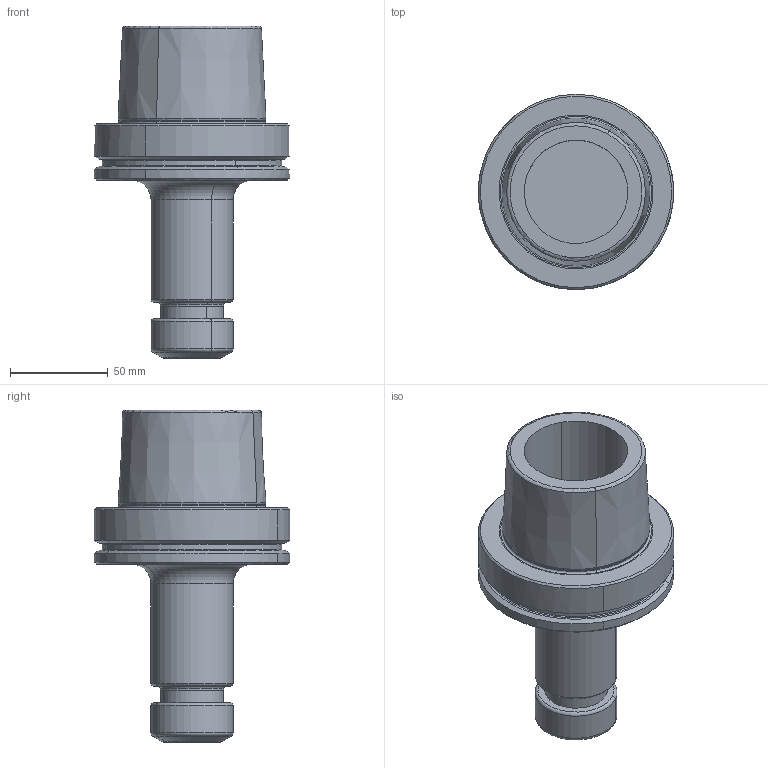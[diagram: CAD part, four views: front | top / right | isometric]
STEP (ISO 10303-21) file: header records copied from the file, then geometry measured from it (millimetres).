
FILE_DESCRIPTION(('CATIA V5 STEP','CAx-IF Rec.Pracs.--- Model Styling and Organization---1.2---2011-12-15'),'2;1');
FILE_NAME('\\nas01\drv1\utils\eitdev\rte\eit\transmagicconvert\db\out\635923300047290061\4561155-L-B.stp','2016-02-29T06:06:55+00:00',('none'),('none'),'CATIA Version 5 Release 21 SP 5 (IN-10)','CATIA V5 STEP AP214','none');
FILE_SCHEMA(('AUTOMOTIVE_DESIGN { 1 0 10303 214 1 1 1 1 }'));
Length unit declared in the file: millimetre
Products named in the file (1): HSK A 100 ER25X120
Bounding box: 99.98 x 100 x 170 mm (x, y, z)
Volume: 402542.2 mm3; surface area: 61939.2 mm2
Topology: 1 solids, 1 shells, 78 faces, 204 edges, 135 vertices
Faces by surface type: cylinder 24, cone 22, torus 22, plane 10
Entity records: 2345 total; most frequent: CARTESIAN_POINT 574, ORIENTED_EDGE 404, DIRECTION 274, EDGE_CURVE 202, AXIS2_PLACEMENT_3D 183, CIRCLE 136, VERTEX_POINT 135, EDGE_LOOP 87
